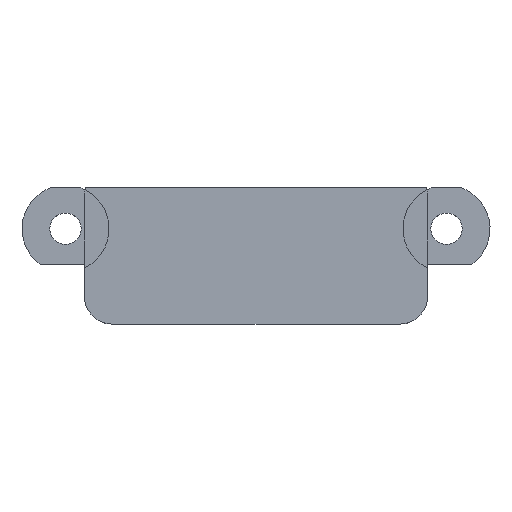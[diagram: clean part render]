
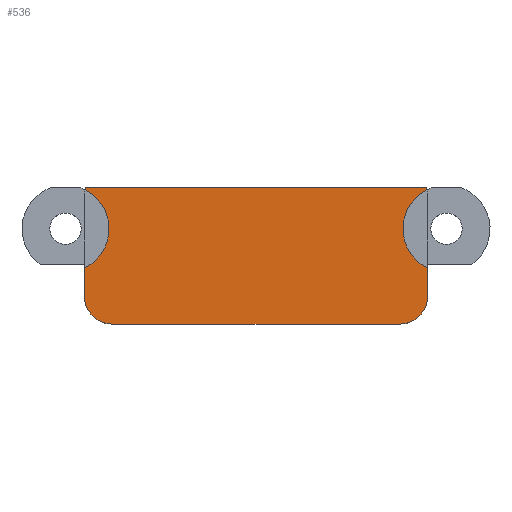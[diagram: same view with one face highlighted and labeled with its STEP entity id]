
A CAD part, top view. The second image highlights one B-rep face of the part: STEP entity #536.
In plain terms, the highlighted planar face has unit normal (0, 0, 1).
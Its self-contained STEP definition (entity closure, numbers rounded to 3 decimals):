
#27=PLANE('',#597);
#50=FACE_OUTER_BOUND('',#82,.T.);
#82=EDGE_LOOP('',(#425,#426,#427,#428,#429,#430,#431,#432,#433,#434));
#118=LINE('',#858,#166);
#125=LINE('',#884,#173);
#126=LINE('',#888,#174);
#127=LINE('',#891,#175);
#166=VECTOR('',#686,1.);
#173=VECTOR('',#715,1.);
#174=VECTOR('',#718,1.);
#175=VECTOR('',#721,1.);
#207=CIRCLE('',#582,2.);
#209=CIRCLE('',#591,3.2);
#214=CIRCLE('',#598,2.);
#215=CIRCLE('',#599,2.);
#216=CIRCLE('',#600,2.);
#217=CIRCLE('',#601,3.2);
#241=VERTEX_POINT('',#832);
#245=VERTEX_POINT('',#841);
#248=VERTEX_POINT('',#855);
#249=VERTEX_POINT('',#857);
#256=VERTEX_POINT('',#882);
#257=VERTEX_POINT('',#883);
#258=VERTEX_POINT('',#885);
#259=VERTEX_POINT('',#887);
#260=VERTEX_POINT('',#890);
#261=VERTEX_POINT('',#892);
#298=EDGE_CURVE('',#245,#241,#207,.T.);
#306=EDGE_CURVE('',#249,#248,#118,.T.);
#310=EDGE_CURVE('',#241,#248,#209,.T.);
#318=EDGE_CURVE('',#256,#257,#125,.T.);
#319=EDGE_CURVE('',#258,#256,#214,.T.);
#320=EDGE_CURVE('',#258,#259,#126,.T.);
#321=EDGE_CURVE('',#249,#259,#215,.T.);
#322=EDGE_CURVE('',#245,#260,#127,.T.);
#323=EDGE_CURVE('',#261,#260,#216,.T.);
#324=EDGE_CURVE('',#257,#261,#217,.T.);
#425=ORIENTED_EDGE('',*,*,#318,.F.);
#426=ORIENTED_EDGE('',*,*,#319,.F.);
#427=ORIENTED_EDGE('',*,*,#320,.T.);
#428=ORIENTED_EDGE('',*,*,#321,.F.);
#429=ORIENTED_EDGE('',*,*,#306,.T.);
#430=ORIENTED_EDGE('',*,*,#310,.F.);
#431=ORIENTED_EDGE('',*,*,#298,.F.);
#432=ORIENTED_EDGE('',*,*,#322,.T.);
#433=ORIENTED_EDGE('',*,*,#323,.F.);
#434=ORIENTED_EDGE('',*,*,#324,.F.);
#536=ADVANCED_FACE('',(#50),#27,.T.);
#582=AXIS2_PLACEMENT_3D('',#843,#670,#671);
#591=AXIS2_PLACEMENT_3D('',#866,#698,#699);
#597=AXIS2_PLACEMENT_3D('',#881,#713,#714);
#598=AXIS2_PLACEMENT_3D('',#886,#716,#717);
#599=AXIS2_PLACEMENT_3D('',#889,#719,#720);
#600=AXIS2_PLACEMENT_3D('',#893,#722,#723);
#601=AXIS2_PLACEMENT_3D('',#894,#724,#725);
#670=DIRECTION('center_axis',(0.,0.,-1.));
#671=DIRECTION('ref_axis',(-1.,0.,0.));
#686=DIRECTION('',(0.,1.,0.));
#698=DIRECTION('center_axis',(0.,0.,1.));
#699=DIRECTION('ref_axis',(1.,0.,0.));
#713=DIRECTION('center_axis',(0.,0.,1.));
#714=DIRECTION('ref_axis',(1.,0.,0.));
#715=DIRECTION('',(0.,1.,0.));
#716=DIRECTION('center_axis',(0.,0.,-1.));
#717=DIRECTION('ref_axis',(-1.,0.,0.));
#718=DIRECTION('',(1.,0.,0.));
#719=DIRECTION('center_axis',(0.,0.,-1.));
#720=DIRECTION('ref_axis',(-1.,0.,0.));
#721=DIRECTION('',(-1.,0.,0.));
#722=DIRECTION('center_axis',(0.,0.,-1.));
#723=DIRECTION('ref_axis',(-1.,0.,0.));
#724=DIRECTION('center_axis',(0.,0.,1.));
#725=DIRECTION('ref_axis',(1.,0.,0.));
#832=CARTESIAN_POINT('',(12.567,66.861,-19.13));
#841=CARTESIAN_POINT('',(12.536,67.,-19.13));
#843=CARTESIAN_POINT('Origin',(10.6,66.5,-19.13));
#855=CARTESIAN_POINT('',(12.6,61.123,-19.13));
#857=CARTESIAN_POINT('',(12.6,59.,-19.13));
#858=CARTESIAN_POINT('',(12.6,62.75,-19.13));
#866=CARTESIAN_POINT('Origin',(14.,64.,-19.13));
#881=CARTESIAN_POINT('Origin',(0.,62.75,-19.13));
#882=CARTESIAN_POINT('',(-12.6,59.,-19.13));
#883=CARTESIAN_POINT('',(-12.6,61.123,-19.13));
#884=CARTESIAN_POINT('',(-12.6,62.75,-19.13));
#885=CARTESIAN_POINT('',(-10.6,57.,-19.13));
#886=CARTESIAN_POINT('Origin',(-10.6,59.,-19.13));
#887=CARTESIAN_POINT('',(10.6,57.,-19.13));
#888=CARTESIAN_POINT('',(0.,57.,-19.13));
#889=CARTESIAN_POINT('Origin',(10.6,59.,-19.13));
#890=CARTESIAN_POINT('',(-12.536,67.,-19.13));
#891=CARTESIAN_POINT('',(-9.,67.,-19.13));
#892=CARTESIAN_POINT('',(-12.567,66.861,-19.13));
#893=CARTESIAN_POINT('Origin',(-10.6,66.5,-19.13));
#894=CARTESIAN_POINT('Origin',(-14.,64.,-19.13));
